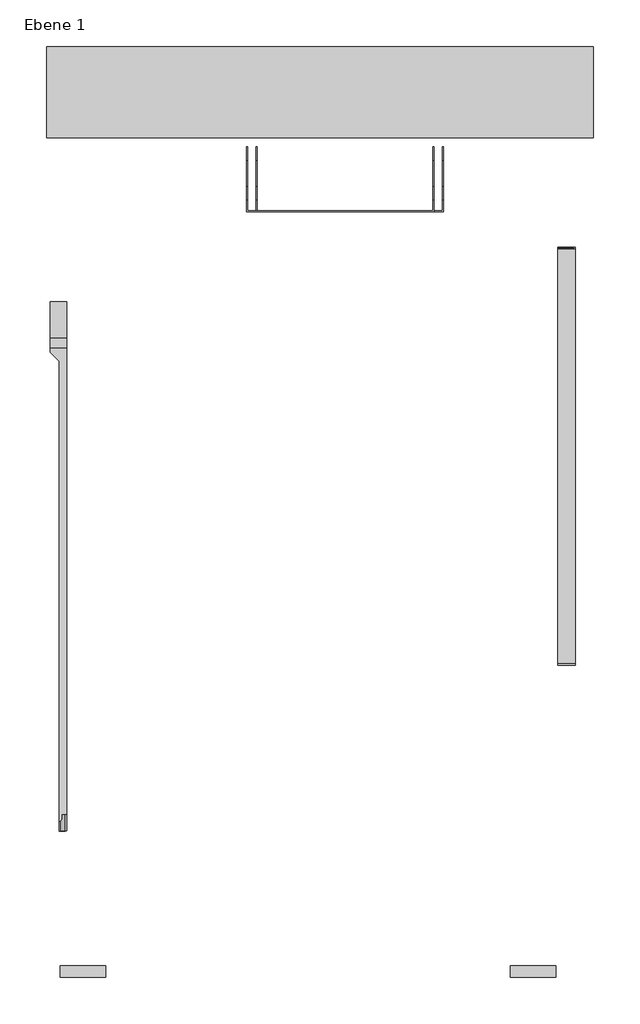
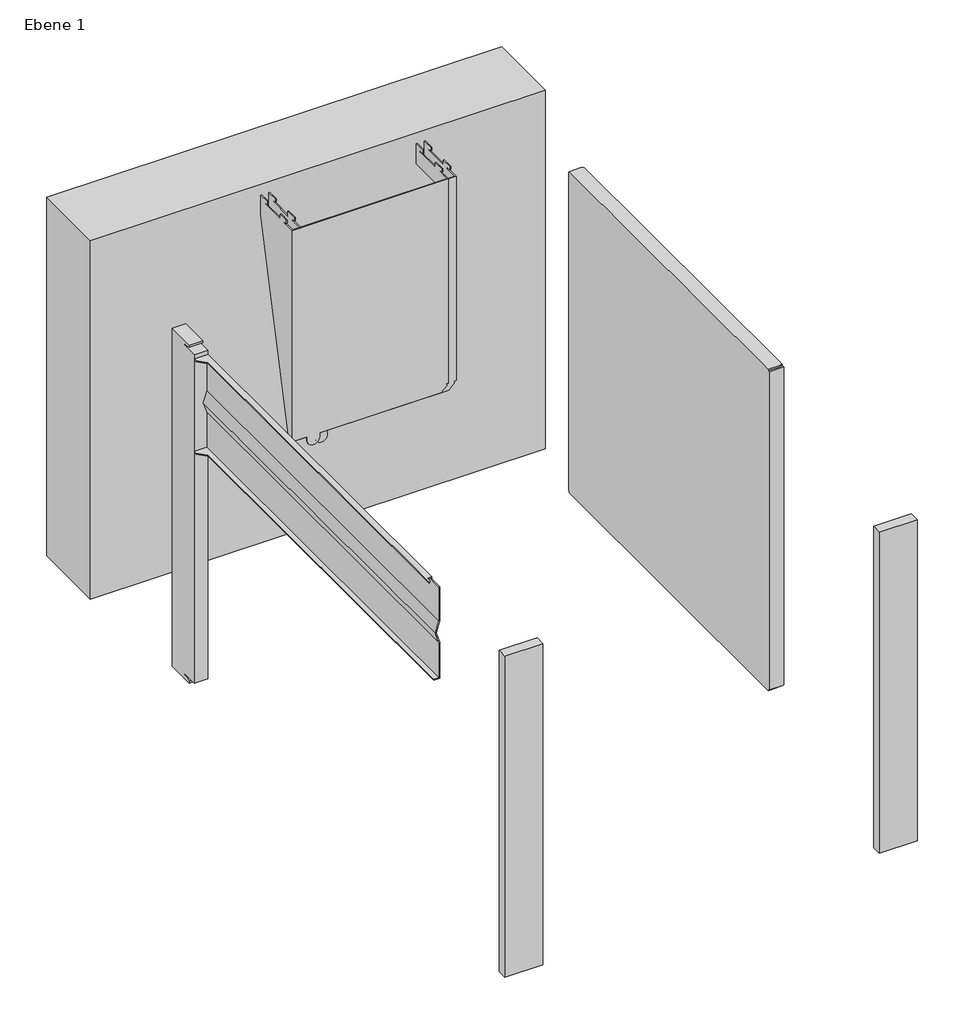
# One storey, incomplete: 6 proxies.
"""IFC4 building model written with IfcOpenShell, lengths in millimetres."""

from ifc_helpers import new_model, si_unit, origin, place, context, project, spatial, transform, mapped, element, save
from components import generic_models_31e82969, generic_models_de27f77d, generic_models_fb11fd52, generic_models_8c06a8be, generic_models_ada9aacc

model = new_model("IFC4")

# Units and contexts
model_context = context("Model", 3, world=origin())
ifc_project = project(units=[si_unit("LENGTHUNIT", "METRE", prefix="MILLI")], contexts=[model_context])

# Site, building, storey
site = spatial("IfcSite", under=ifc_project)
building = spatial("IfcBuilding", under=site)
storey = spatial("IfcBuildingStorey", under=building, Name="Ebene 1", Elevation=0.0)

# Proxies
placement = place(None, origin())
generic_models_shape = generic_models_31e82969(model_context)
element("IfcBuildingElementProxy", 1, Name="ec1_Becken_2025-07-23", ObjectType="ec1_Becken_2025-07-23", at=placement, inside=storey, context=model_context, shape_type="MappedRepresentation", body=[
    mapped(generic_models_shape, transform((300.0, 1105.5, -250.0), x_axis=(1.0, 0.0, 0.0), y_axis=(0.0, 1.0, 0.0), z_axis=(0.0, 0.0, 1.0))),
])
generic_models_2_shape = generic_models_de27f77d(model_context)
element("IfcBuildingElementProxy", 2, Name="046253_Strebe_Boden.02", ObjectType="046253_Strebe_Boden.02", at=placement, inside=storey, context=model_context, shape_type="MappedRepresentation", body=[
    mapped(generic_models_2_shape, transform((0.0, -0.6, 0.0), x_axis=(1.0, 0.0, 0.0), y_axis=(0.0, 1.0, 0.0), z_axis=(0.0, 0.0, 1.0))),
])
element("IfcBuildingElementProxy", 3, Name="046253_Strebe_Boden.003", ObjectType="046253_Strebe_Boden.003", at=placement, inside=storey, context=model_context, shape_type="MappedRepresentation", body=[
    mapped(generic_models_2_shape, transform((493.69, -0.6, 0.0), x_axis=(1.0, 0.0, 0.0), y_axis=(0.0, 1.0, 0.0), z_axis=(0.0, 0.0, 1.0))),
])
generic_models_3_shape = generic_models_fb11fd52(model_context)
element("IfcBuildingElementProxy", 4, Name="Platzhalter_Spuelkammer_Tuer_15.07.25", ObjectType="Platzhalter_Spuelkammer_Tuer_15.07.25", at=placement, inside=storey, context=model_context, shape_type="MappedRepresentation", body=[
    mapped(generic_models_3_shape, transform((580.0, 756.25, -250.0), x_axis=(0.0, 1.0, 0.0), y_axis=(-1.0, 0.0, 0.0), z_axis=(0.0, 0.0, 1.0))),
])
generic_models_4_shape = generic_models_8c06a8be(model_context)
element("IfcBuildingElementProxy", 5, Name="046289_Konsole_fuer_Powerteil", ObjectType="046289_Konsole_fuer_Powerteil", at=placement, inside=storey, context=model_context, shape_type="MappedRepresentation", body=[
    mapped(generic_models_4_shape, transform((-1.375, 0.0, 0.0), x_axis=(1.0, 0.0, 0.0), y_axis=(0.0, 1.0, 0.0), z_axis=(0.0, 0.0, 1.0))),
])
generic_models_5_shape = generic_models_ada9aacc(model_context)
element("IfcBuildingElementProxy", 6, Name="046542_Motorhalterung", ObjectType="046542_Motorhalterung", at=placement, inside=storey, context=model_context, shape_type="MappedRepresentation", body=[
    mapped(generic_models_5_shape, transform((0.0, 0.0, 0.0), x_axis=(1.0, 0.0, 0.0), y_axis=(0.0, 1.0, 0.0), z_axis=(0.0, 0.0, 1.0))),
])

save(model, "model.ifc")
